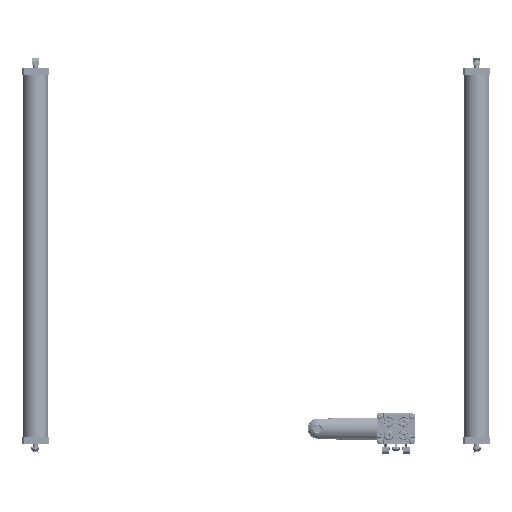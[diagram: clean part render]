
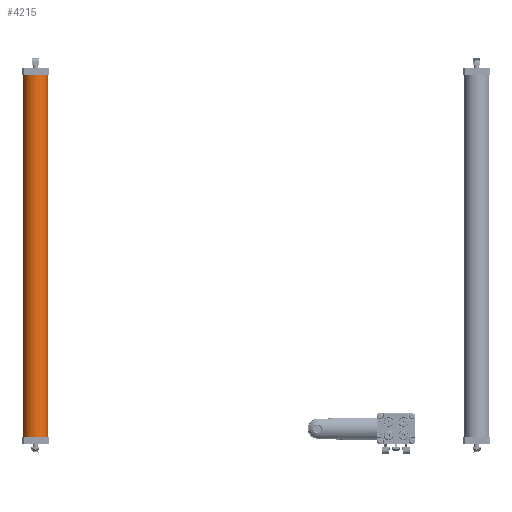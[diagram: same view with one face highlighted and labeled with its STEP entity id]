
A CAD part, left-side view. The second image highlights one B-rep face of the part: STEP entity #4215.
In plain terms, the highlighted cylindrical face has radius 21.247 mm (diameter 42.494 mm), a partial arc.
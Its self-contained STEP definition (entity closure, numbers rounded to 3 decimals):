
#1368=CARTESIAN_POINT('',(-76.847,-13.989,0.0));
#1369=VERTEX_POINT('',#1368);
#1377=CARTESIAN_POINT('',(-76.505,28.495,0.0));
#1378=VERTEX_POINT('',#1377);
#1379=CARTESIAN_POINT('',(-76.25,7.25,0.0));
#1380=DIRECTION('',(0.0,0.0,1.0));
#1381=DIRECTION('',(1.0,0.0,0.0));
#1382=AXIS2_PLACEMENT_3D('',#1379,#1380,#1381);
#1383=CIRCLE('',#1382,21.247);
#1384=EDGE_CURVE('',#1378,#1369,#1383,.T.);
#4184=CARTESIAN_POINT('',(-76.25,7.25,600.0));
#4185=DIRECTION('',(0.0,0.0,-1.0));
#4186=DIRECTION('',(-1.0,0.0,0.0));
#4187=AXIS2_PLACEMENT_3D('',#4184,#4185,#4186);
#4188=CYLINDRICAL_SURFACE('',#4187,21.247);
#4189=CARTESIAN_POINT('',(-76.505,28.495,600.0));
#4190=VERTEX_POINT('',#4189);
#4191=CARTESIAN_POINT('',(-76.847,-13.989,600.0));
#4192=VERTEX_POINT('',#4191);
#4193=CARTESIAN_POINT('',(-76.25,7.25,600.0));
#4194=DIRECTION('',(0.0,0.0,1.0));
#4195=DIRECTION('',(1.0,0.0,0.0));
#4196=AXIS2_PLACEMENT_3D('',#4193,#4194,#4195);
#4197=CIRCLE('',#4196,21.247);
#4198=EDGE_CURVE('',#4190,#4192,#4197,.T.);
#4199=ORIENTED_EDGE('',*,*,#4198,.F.);
#4200=CARTESIAN_POINT('',(-76.505,28.495,600.0));
#4201=DIRECTION('',(0.0,0.0,-1.0));
#4202=VECTOR('',#4201,600.0);
#4203=LINE('',#4200,#4202);
#4204=EDGE_CURVE('',#4190,#1378,#4203,.T.);
#4205=ORIENTED_EDGE('',*,*,#4204,.T.);
#4206=ORIENTED_EDGE('',*,*,#1384,.T.);
#4207=CARTESIAN_POINT('',(-76.847,-13.989,600.0));
#4208=DIRECTION('',(0.0,0.0,-1.0));
#4209=VECTOR('',#4208,600.0);
#4210=LINE('',#4207,#4209);
#4211=EDGE_CURVE('',#4192,#1369,#4210,.T.);
#4212=ORIENTED_EDGE('',*,*,#4211,.F.);
#4213=EDGE_LOOP('',(#4199,#4205,#4206,#4212));
#4214=FACE_OUTER_BOUND('',#4213,.T.);
#4215=ADVANCED_FACE('',(#4214),#4188,.T.);
